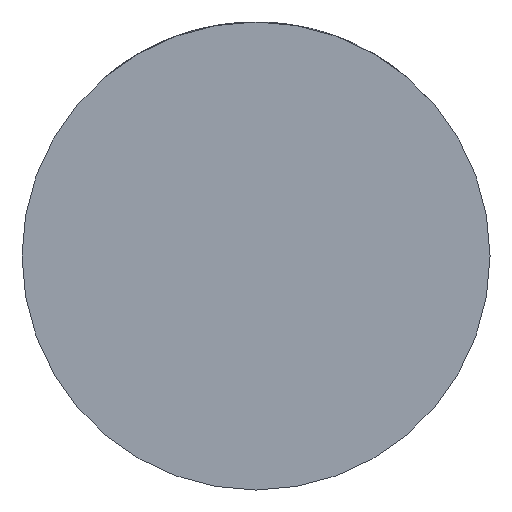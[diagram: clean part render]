
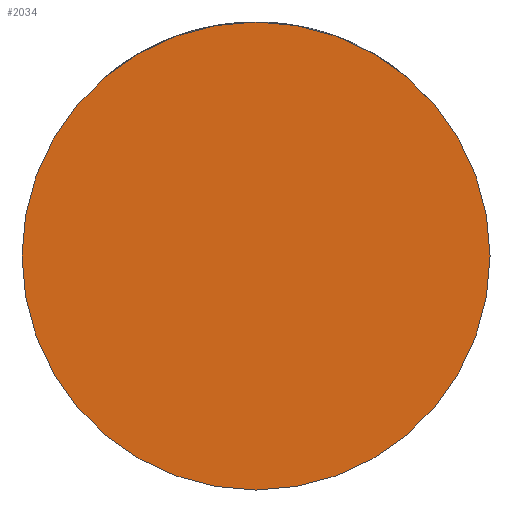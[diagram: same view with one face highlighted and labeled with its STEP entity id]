
A CAD part, front view. The second image highlights one B-rep face of the part: STEP entity #2034.
In plain terms, the highlighted planar face has unit normal (0, -1, 0).
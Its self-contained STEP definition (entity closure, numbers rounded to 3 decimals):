
#31 = ORIENTED_EDGE ( 'NONE', *, *, #2647, .T. ) ;
#93 = DIRECTION ( 'NONE',  ( 0., -1., 0. ) ) ;
#179 = CARTESIAN_POINT ( 'NONE',  ( -29.5, -33., 0. ) ) ;
#338 = CARTESIAN_POINT ( 'NONE',  ( 0., -33., 0. ) ) ;
#446 = CIRCLE ( 'NONE', #1404, 29.5 ) ;
#469 = VERTEX_POINT ( 'NONE', #3587 ) ;
#825 = PLANE ( 'NONE',  #2878 ) ;
#1094 = AXIS2_PLACEMENT_3D ( 'NONE', #2684, #3047, #4108 ) ;
#1404 = AXIS2_PLACEMENT_3D ( 'NONE', #338, #3807, #1719 ) ;
#1719 = DIRECTION ( 'NONE',  ( 1., 0., 0. ) ) ;
#2034 = ADVANCED_FACE ( 'NONE', ( #3971 ), #825, .T. ) ;
#2103 = VERTEX_POINT ( 'NONE', #179 ) ;
#2255 = CARTESIAN_POINT ( 'NONE',  ( 0., -33., 0. ) ) ;
#2647 = EDGE_CURVE ( 'NONE', #469, #2103, #3217, .T. ) ;
#2684 = CARTESIAN_POINT ( 'NONE',  ( 0., -33., 0. ) ) ;
#2878 = AXIS2_PLACEMENT_3D ( 'NONE', #2255, #93, #4299 ) ;
#3047 = DIRECTION ( 'NONE',  ( 0., -1., 0. ) ) ;
#3217 = CIRCLE ( 'NONE', #1094, 29.5 ) ;
#3587 = CARTESIAN_POINT ( 'NONE',  ( 29.5, -33., 0. ) ) ;
#3742 = EDGE_LOOP ( 'NONE', ( #4504, #31 ) ) ;
#3807 = DIRECTION ( 'NONE',  ( 0., -1., 0. ) ) ;
#3971 = FACE_OUTER_BOUND ( 'NONE', #3742, .T. ) ;
#4033 = EDGE_CURVE ( 'NONE', #2103, #469, #446, .T. ) ;
#4108 = DIRECTION ( 'NONE',  ( 1., 0., 0. ) ) ;
#4299 = DIRECTION ( 'NONE',  ( 1., 0., 0. ) ) ;
#4504 = ORIENTED_EDGE ( 'NONE', *, *, #4033, .T. ) ;
